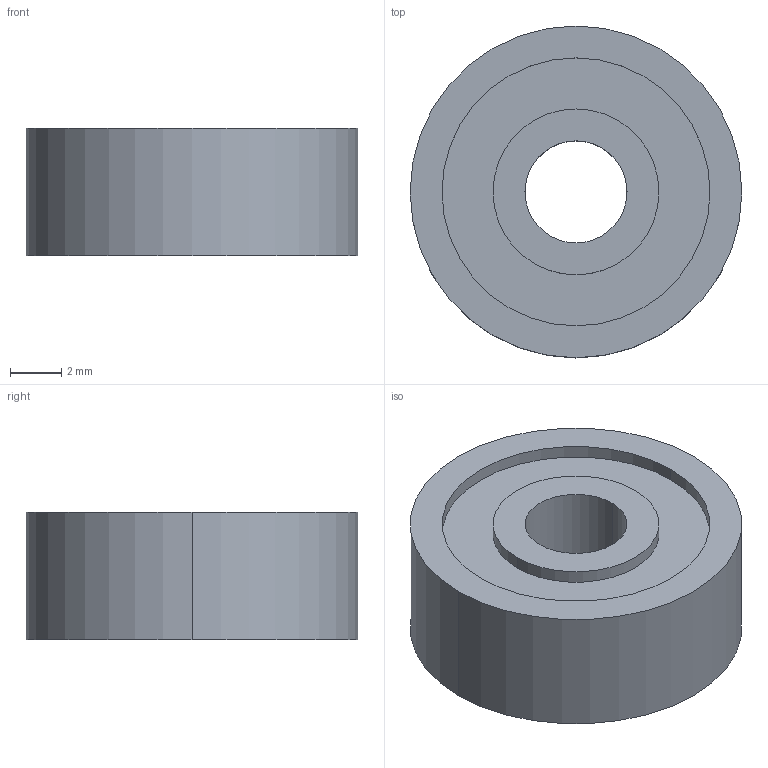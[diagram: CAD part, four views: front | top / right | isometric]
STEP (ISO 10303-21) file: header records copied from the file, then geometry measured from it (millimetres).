
FILE_DESCRIPTION (( 'STEP AP214' ), '1' );
FILE_NAME ('M4_barring.STEP', '2026-02-22T20:17:38', ( '' ), ( '' ), 'SwSTEP 2.0', 'SolidWorks 2024', '' );
FILE_SCHEMA (( 'AUTOMOTIVE_DESIGN' ));
Length unit declared in the file: millimetre
Products named in the file (1): M4_barring
Bounding box: 13 x 13 x 5 mm (x, y, z)
Volume: 547.4 mm3; surface area: 560.8 mm2
Topology: 1 solids, 1 shells, 18 faces, 36 edges, 24 vertices
Faces by surface type: cylinder 12, plane 6
Entity records: 511 total; most frequent: DIRECTION 98, CARTESIAN_POINT 79, ORIENTED_EDGE 72, AXIS2_PLACEMENT_3D 43, EDGE_CURVE 36, CIRCLE 24, EDGE_LOOP 24, VERTEX_POINT 24
